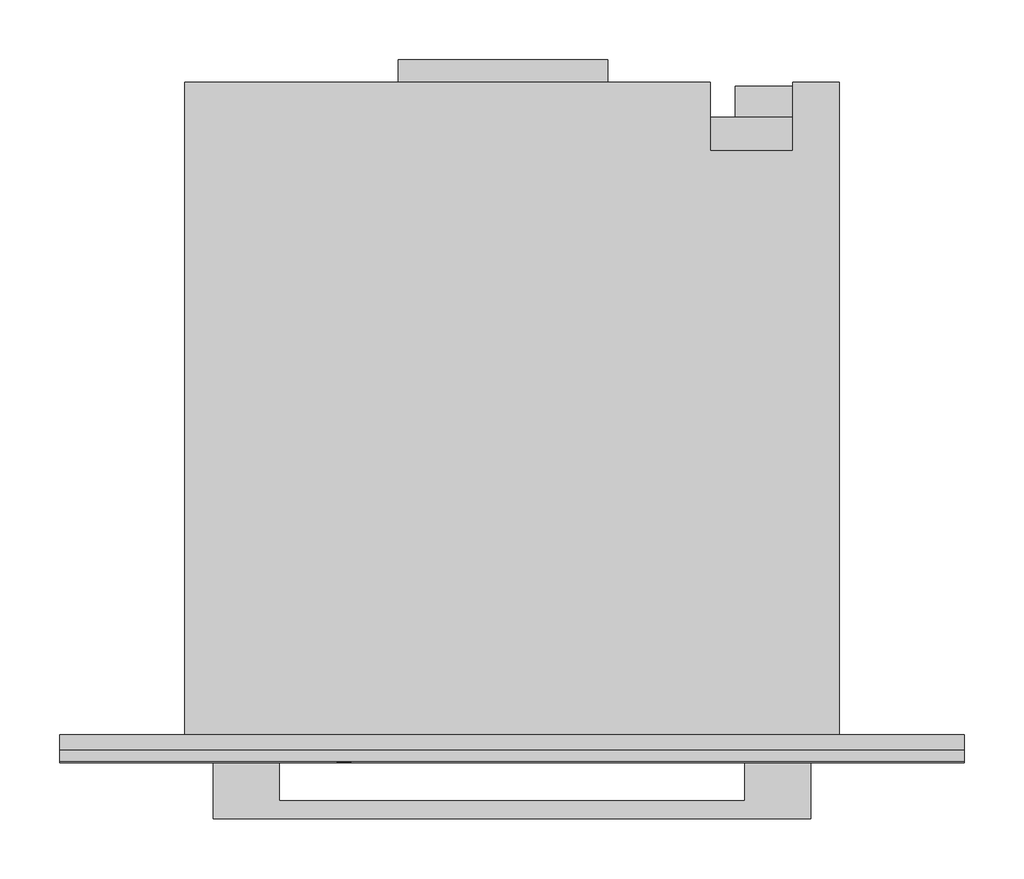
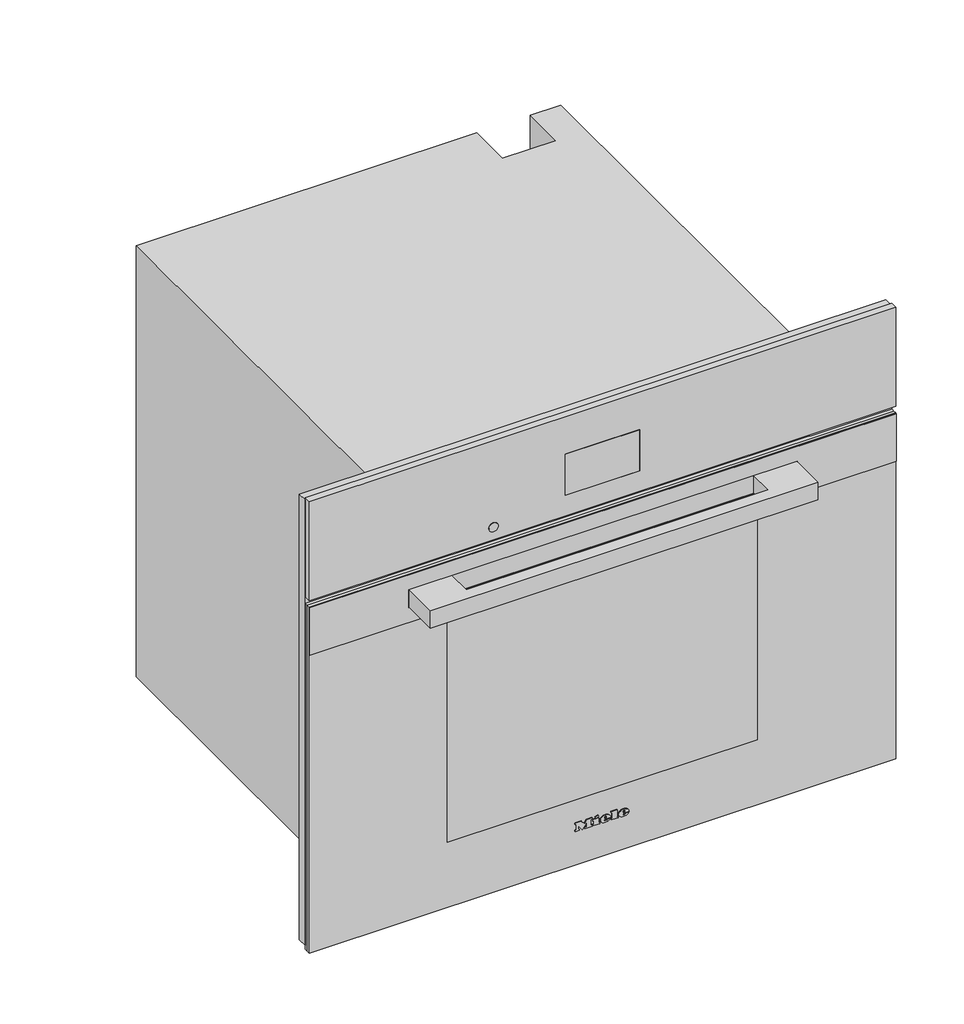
# Not in any storey: 1 proxy.
"""IFC4 building model written with IfcOpenShell, lengths in millimetres."""

from ifc_helpers import new_model, si_unit, origin, place, context, project, spatial, transform, mapped, element, save
from components import specialty_equipment_7ddf465e

model = new_model("IFC4")

# Units and contexts
model_context = context("Model", 3, world=origin())
ifc_project = project(units=[si_unit("LENGTHUNIT", "METRE", prefix="MILLI")], contexts=[model_context])

# Site, building
site = spatial("IfcSite", under=ifc_project)
building = spatial("IfcBuilding", under=site)

# Proxy
placement = place(None, origin())
specialty_equipment_shape = specialty_equipment_7ddf465e(model_context)
element("IfcBuildingElementProxy", 1, Name="11876470_USA_DGC7680_EDST-CLST : 23768043_USA_11876470_DGC7680_EDST-CLST", ObjectType="11876470_USA_DGC7680_EDST-CLST : 23768043_USA_11876470_DGC7680_EDST-CLST", at=placement, inside=building, context=model_context, shape_type="MappedRepresentation", body=[
    mapped(specialty_equipment_shape, transform((0.0, 0.0, 0.0), x_axis=(1.0, 0.0, 0.0), y_axis=(0.0, 1.0, 0.0), z_axis=(0.0, 0.0, 1.0))),
])

save(model, "model.ifc")
